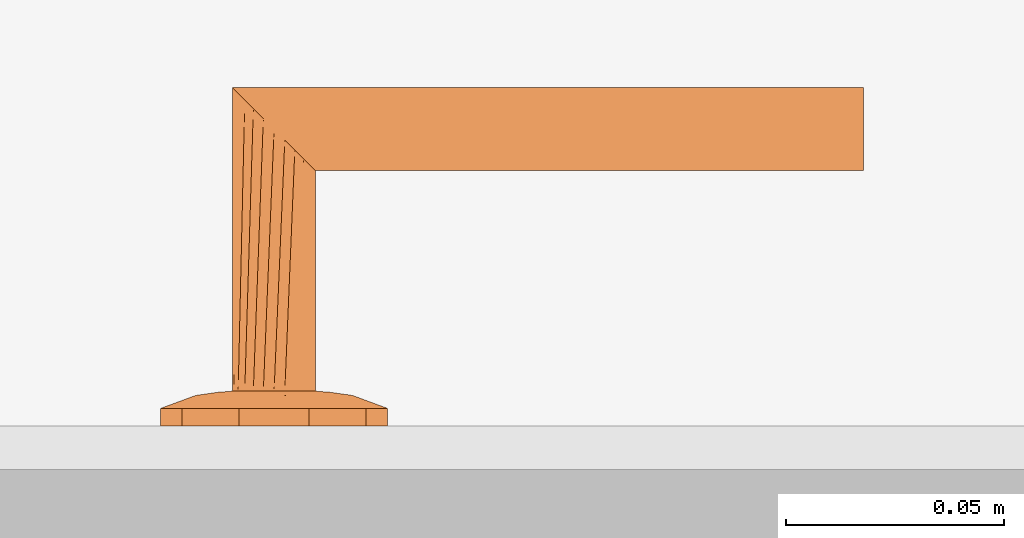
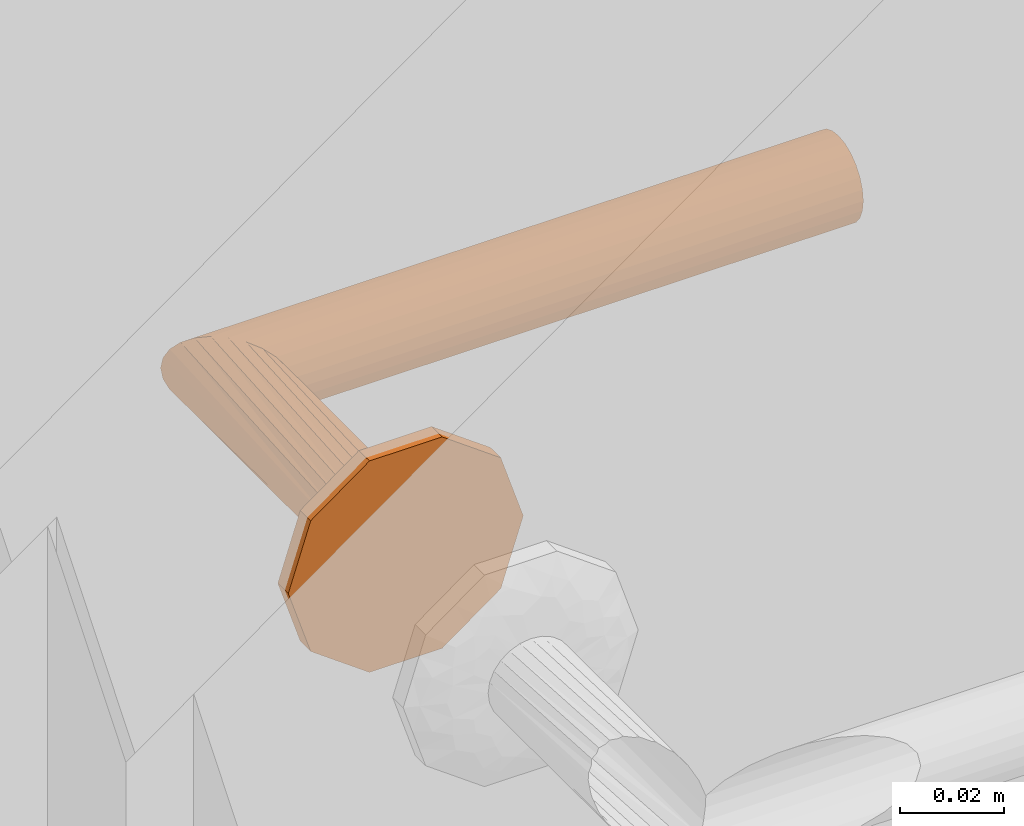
# One storey, part 26 of 55: 1 proxy.
"""IFC2X3 building model written with IfcOpenShell, lengths in millimetres."""

from ifc_helpers import new_model, entity, si_unit, converted_unit, direction, frame, origin, place, context, subcontext, project, spatial, faceted_brep, source, transform, mapped, material, type_object, type_shapes, element, save


model = new_model("IFC2X3")

# Units and contexts
model_context = context("Model", 3, precision=0.01, world=origin(), true_north=direction((6.123233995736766e-17, 1.0)))
plan_context = context("Plan", 3, precision=0.01, world=origin(), true_north=direction((6.123233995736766e-17, 1.0)))
body_context = subcontext(model_context, "Body", "Model", "MODEL_VIEW")
ifc_project = project(units=[si_unit("LENGTHUNIT", "METRE", prefix="MILLI"), converted_unit("PLANEANGLEUNIT", "DEGREE", entity("IfcPlaneAngleMeasure", 0.017453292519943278), si_unit("PLANEANGLEUNIT", "RADIAN"), dimensions=[0, 0, 0, 0, 0, 0, 0]), si_unit("AREAUNIT", "SQUARE_METRE")], contexts=[model_context, plan_context])

# Site, building, storey, space
site_placement = place(None, origin())
site = spatial("IfcSite", under=ifc_project, at=site_placement, Name="Default", CompositionType="ELEMENT")
building_placement = place(site_placement, origin())
building = spatial("IfcBuilding", under=site, at=building_placement, CompositionType="ELEMENT")
storey_placement = place(building_placement, origin())
storey = spatial("IfcBuildingStorey", under=building, at=storey_placement, Name="1K", CompositionType="ELEMENT", Elevation=0.0)
space_placement = place(storey_placement, origin())
space = spatial("IfcSpace", under=storey, at=space_placement, Name="1-0.5", CompositionType="ELEMENT", InteriorOrExteriorSpace="INTERNAL")

# Proxy
ifc_material = material(Name="<Unnamed>")
building_element_proxy_type = type_object("IfcBuildingElementProxyType", Name="Door-handle_Lever_ABLOY_INOXI_3-19ss-002_RT:Default", PredefinedType="NOTDEFINED", material=ifc_material)
shared_shape = source(origin(), body_context, "Body", "Brep", [
    faceted_brep([(0.0, 0.0, 0.0), (21.034441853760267, -15.282416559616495, 0.0), (14.534441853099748, -20.00494299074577, 0.0), (8.034441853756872, -24.72746942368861, 0.0), (0.0, -24.72746942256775, 0.0), (23.51722092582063, -7.6412082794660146, 0.0), (26.0, 0.0, 0.0), (-8.034441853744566, -24.727469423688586, 0.0), (-14.534441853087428, -20.00494299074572, 0.0), (-21.03444185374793, -15.282416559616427, 0.0), (-23.517220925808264, -7.641208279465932, 0.0), (-26.0, 0.0, 0.0), (-23.517220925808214, 7.641208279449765, 0.0), (23.517220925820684, 7.641208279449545, 0.0), (21.034441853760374, 15.282416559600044, 0.0), (14.53444185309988, 20.00494299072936, 0.0), (8.034441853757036, 24.72746942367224, 0.0), (-21.034441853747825, 15.282416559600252, 0.0), (-14.53444185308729, 20.004942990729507, 0.0), (-8.0344418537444, 24.72746942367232, 0.0), (0.0, 24.72746942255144, 0.0), (0.0, 0.0, 8.0), (4.7500000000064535, -8.227241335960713, 8.0), (5.937500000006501, -6.170431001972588, 8.0), (7.125000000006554, -4.113620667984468, 8.0), (8.312500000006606, -2.0568103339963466, 8.0), (9.500000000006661, 0.0, 8.0), (8.312500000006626, 2.056810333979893, 8.0), (2.3750000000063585, -8.227241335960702, 8.0), (0.0, -8.227241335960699, 8.0), (-2.3749999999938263, -8.227241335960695, 8.0), (-4.749999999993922, -8.227241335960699, 8.0), (-5.937499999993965, -6.170431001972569, 8.0), (-7.124999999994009, -4.113620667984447, 8.0), (-8.312499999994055, -2.056810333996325, 8.0), (-9.499999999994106, 0.0, 8.0), (7.125000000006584, 4.113620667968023, 8.0), (5.937500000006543, 6.170431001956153, 8.0), (4.750000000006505, 8.227241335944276, 8.0), (2.3750000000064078, 8.22724133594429, 8.0), (-8.31249999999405, 2.0568103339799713, 8.0), (-7.12499999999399, 4.113620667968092, 8.0), (-5.9374999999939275, 6.170431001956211, 8.0), (-4.74999999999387, 8.227241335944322, 8.0), (0.0, 8.227241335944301, 8.0), (-2.374999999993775, 8.227241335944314, 8.0), (-22.488765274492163, -10.806469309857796, 4.030771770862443), (-16.663919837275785, -7.932665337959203, 6.877259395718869), (-20.643071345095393, -6.292822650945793, 5.929480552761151), (-12.50457926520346, -5.179566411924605, 7.774932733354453), (-16.764060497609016, -3.820257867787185, 7.1747985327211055), (-9.071726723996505, -10.311606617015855, 7.7520782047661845), (-11.963426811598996, -8.625290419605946, 7.618343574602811), (-11.979136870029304, -13.678312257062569, 6.945778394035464), (5.7585542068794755, -20.96753300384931, 5.871476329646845), (0.0, -24.72746942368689, 4.030771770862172), (8.03444185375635, -24.727469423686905, 4.030771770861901), (16.66391982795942, -7.932665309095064, 6.877259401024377), (22.488765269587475, -10.806469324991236, 4.03077177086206), (20.64307133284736, -6.29282258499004, 5.929480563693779), (14.534441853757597, -20.004942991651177, 4.030771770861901), (9.499431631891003, -18.64368355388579, 6.154325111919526), (-15.783149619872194, -11.991003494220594, 6.50080018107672), (-21.034441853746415, -15.282416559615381, 4.030771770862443), (-14.53444185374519, -20.00494299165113, 4.030771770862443), (-23.012042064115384, 0.0, 5.135401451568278), (-23.943088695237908, -6.330522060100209, 4.030771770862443), (11.96342678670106, -8.62529049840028, 7.618343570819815), (12.504579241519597, -5.179566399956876, 7.774932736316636), (16.764060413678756, -3.8202578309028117, 7.17479855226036), (15.783149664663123, -11.991003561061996, 6.50080015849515), (17.985351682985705, 0.0, 6.993737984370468), (23.012042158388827, 0.0, 5.135401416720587), (8.661516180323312, -10.478936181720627, 7.768126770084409), (-8.03444185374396, -24.727469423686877, 4.030771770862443), (-3.3573143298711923, -21.197247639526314, 5.971427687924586), (-9.941915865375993, -17.061976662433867, 6.522757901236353), (-5.973257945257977, -16.430139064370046, 7.110979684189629), (-7.711266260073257, -12.760344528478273, 7.594456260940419), (11.979136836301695, -13.678312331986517, 6.945778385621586), (7.511307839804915, -13.358932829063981, 7.529187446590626), (5.953298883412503, -16.50608604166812, 7.096344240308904), (-1.5654593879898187, -15.307443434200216, 7.519134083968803), (-7.784980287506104, -20.476295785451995, 5.812837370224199), (2.8135289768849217, -17.76392260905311, 6.993737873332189), (-17.98535168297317, 0.0, 6.993737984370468), (-26.0, 0.0, 4.030771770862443), (-23.51722092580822, -7.641208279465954, 4.030771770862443), (23.943088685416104, -6.33052209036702, 4.030771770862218), (24.308823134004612, -5.204907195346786, 4.030771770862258), (26.0, 0.0, 4.030771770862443), (21.03444185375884, -15.282416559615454, 4.030771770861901), (22.617646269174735, -10.40981439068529, 4.030771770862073), (22.488765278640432, 10.806469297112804, 4.030771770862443), (16.66391984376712, 7.932665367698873, 6.877259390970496), (20.643071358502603, 6.292822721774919, 5.929480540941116), (12.504579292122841, 5.179566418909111, 7.774932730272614), (16.764060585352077, 3.8202579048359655, 7.174798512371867), (9.07172672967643, 10.31160659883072, 7.752078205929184), (11.963426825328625, 8.62529034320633, 7.618343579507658), (11.979136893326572, 13.67831220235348, 6.9457784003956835), (-5.758554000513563, 20.96753314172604, 5.8714763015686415), (0.0, 24.72746942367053, 4.030771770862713), (-8.03444185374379, 24.72746942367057, 4.030771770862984), (-16.663919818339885, 7.932665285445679, 6.877259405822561), (-22.48876526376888, 10.806469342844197, 4.030771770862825), (-20.643071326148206, 6.2928225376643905, 5.929480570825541), (-14.534441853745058, 20.004942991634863, 4.030771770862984), (-9.499431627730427, 18.643683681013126, 6.154325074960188), (15.783149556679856, 11.991003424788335, 6.5008002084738), (21.03444185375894, 15.282416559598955, 4.030771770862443), (14.534441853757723, 20.004942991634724, 4.030771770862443), (23.943088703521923, 6.330522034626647, 4.030771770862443), (-11.96342675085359, 8.625290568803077, 7.618343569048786), (-12.504579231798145, 5.179566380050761, 7.77493273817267), (-16.764060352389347, 3.820257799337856, 7.174798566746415), (-15.78314967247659, 11.991003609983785, 6.500800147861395), (-8.661516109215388, 10.478936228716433, 7.768126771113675), (8.034441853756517, 24.727469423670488, 4.030771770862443), (3.3573144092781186, 21.197247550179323, 5.971427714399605), (9.941915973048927, 17.061976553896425, 6.522757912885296), (5.9732581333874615, 16.430139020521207, 7.110979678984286), (7.711266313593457, 12.760344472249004, 7.5944562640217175), (-11.979136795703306, 13.678312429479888, 6.945778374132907), (-7.511307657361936, 13.358932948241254, 7.5291874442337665), (-5.9532988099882, 16.50608628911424, 7.096344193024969), (1.5654596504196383, 15.3074431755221, 7.519134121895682), (7.784980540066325, 20.476295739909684, 5.812837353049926), (-2.81352881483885, 17.76392263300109, 6.993737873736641), (23.51722092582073, 7.6412082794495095, 4.030771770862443), (-23.94308867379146, 6.330522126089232, 4.030771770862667), (-24.308823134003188, 5.20490719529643, 4.030771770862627), (-21.034441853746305, 15.282416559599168, 4.030771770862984), (-22.617646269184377, 10.409814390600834, 4.0307717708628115)], [[[0, 1, 2]], [[0, 2, 3]], [[0, 3, 4]], [[0, 5, 1]], [[0, 6, 5]], [[0, 4, 7]], [[0, 7, 8]], [[0, 8, 9]], [[0, 9, 10]], [[0, 10, 11]], [[0, 11, 12]], [[0, 13, 6]], [[0, 14, 13]], [[0, 15, 14]], [[0, 16, 15]], [[0, 12, 17]], [[0, 17, 18]], [[0, 18, 19]], [[0, 19, 20]], [[0, 20, 16]], [[21, 22, 23]], [[21, 23, 24]], [[21, 24, 25]], [[21, 25, 26]], [[21, 26, 27]], [[21, 28, 22]], [[21, 29, 28]], [[21, 30, 29]], [[21, 31, 30]], [[21, 32, 31]], [[21, 33, 32]], [[21, 34, 33]], [[21, 35, 34]], [[21, 27, 36]], [[21, 36, 37]], [[21, 37, 38]], [[21, 38, 39]], [[21, 40, 35]], [[21, 41, 40]], [[21, 42, 41]], [[21, 43, 42]], [[21, 39, 44]], [[21, 44, 45]], [[21, 45, 43]], [[46, 47, 48]], [[47, 49, 50]], [[49, 33, 34]], [[51, 52, 53]], [[49, 52, 33]], [[48, 47, 50]], [[54, 55, 56]], [[57, 58, 59]], [[56, 60, 61]], [[62, 63, 64]], [[65, 66, 48]], [[67, 57, 68]], [[68, 69, 25]], [[57, 67, 70]], [[69, 26, 25]], [[62, 53, 52]], [[71, 69, 72]], [[67, 23, 73]], [[74, 55, 75]], [[76, 77, 78]], [[79, 60, 70]], [[69, 59, 72]], [[80, 81, 61]], [[77, 30, 78]], [[82, 30, 77]], [[28, 80, 22]], [[77, 83, 75]], [[75, 82, 77]], [[55, 84, 75]], [[85, 50, 35]], [[24, 68, 25]], [[82, 84, 29]], [[84, 82, 75]], [[31, 78, 30]], [[82, 29, 30]], [[34, 35, 50]], [[52, 49, 47]], [[62, 52, 47]], [[34, 50, 49]], [[53, 78, 51]], [[32, 33, 52]], [[85, 65, 50]], [[66, 65, 86]], [[67, 68, 24]], [[77, 76, 83]], [[65, 48, 50]], [[63, 62, 46]], [[48, 66, 87, 46]], [[62, 47, 46]], [[69, 68, 57]], [[80, 73, 22]], [[70, 67, 79]], [[67, 24, 23]], [[72, 88, 89, 90]], [[69, 71, 26]], [[59, 69, 57]], [[61, 60, 79]], [[62, 64, 53]], [[91, 58, 70]], [[72, 59, 88]], [[57, 70, 58]], [[59, 58, 92]], [[80, 61, 79]], [[91, 70, 60]], [[61, 81, 54]], [[73, 80, 79]], [[28, 84, 81]], [[67, 73, 79]], [[29, 84, 28]], [[22, 73, 23]], [[51, 31, 32]], [[76, 78, 53]], [[53, 64, 76]], [[83, 64, 74]], [[64, 83, 76]], [[75, 83, 74]], [[31, 51, 78]], [[52, 51, 32]], [[28, 81, 80]], [[54, 81, 84]], [[55, 54, 84]], [[61, 54, 56]], [[93, 94, 95]], [[94, 96, 97]], [[96, 36, 27]], [[98, 99, 100]], [[96, 99, 36]], [[95, 94, 97]], [[101, 102, 103]], [[104, 105, 106]], [[103, 107, 108]], [[109, 110, 111]], [[72, 112, 95]], [[113, 104, 114]], [[114, 115, 40]], [[104, 113, 116]], [[115, 35, 40]], [[109, 100, 99]], [[85, 115, 65]], [[113, 42, 117]], [[118, 102, 119]], [[120, 121, 122]], [[123, 107, 116]], [[115, 106, 65]], [[124, 125, 108]], [[121, 39, 122]], [[126, 39, 121]], [[45, 124, 43]], [[121, 127, 119]], [[119, 126, 121]], [[102, 128, 119]], [[71, 97, 26]], [[41, 114, 40]], [[126, 128, 44]], [[128, 126, 119]], [[38, 122, 39]], [[126, 44, 39]], [[27, 26, 97]], [[99, 96, 94]], [[109, 99, 94]], [[27, 97, 96]], [[100, 122, 98]], [[37, 36, 99]], [[71, 72, 97]], [[112, 72, 90]], [[113, 114, 41]], [[121, 120, 127]], [[72, 95, 97]], [[110, 109, 93]], [[95, 112, 129, 93]], [[109, 94, 93]], [[115, 114, 104]], [[124, 117, 43]], [[116, 113, 123]], [[113, 41, 42]], [[65, 130, 131, 86]], [[115, 85, 35]], [[106, 115, 104]], [[108, 107, 123]], [[109, 111, 100]], [[132, 105, 116]], [[65, 106, 130]], [[104, 116, 105]], [[106, 105, 133]], [[124, 108, 123]], [[132, 116, 107]], [[108, 125, 101]], [[117, 124, 123]], [[45, 128, 125]], [[113, 117, 123]], [[44, 128, 45]], [[43, 117, 42]], [[98, 38, 37]], [[120, 122, 100]], [[100, 111, 120]], [[127, 111, 118]], [[111, 127, 120]], [[119, 127, 118]], [[38, 98, 122]], [[99, 98, 37]], [[45, 125, 124]], [[101, 125, 128]], [[102, 101, 128]], [[108, 101, 103]], [[7, 74, 64, 63, 9, 8]], [[10, 9, 63, 46, 87, 66, 86, 11]], [[6, 90, 89, 88, 92, 1, 5]], [[1, 58, 91]], [[74, 7, 4, 3, 56, 55]], [[60, 56, 3, 2, 1, 91]], [[1, 92, 58]], [[14, 110, 93, 129, 112, 90, 6, 13]], [[111, 110, 14, 15, 16, 118]], [[11, 86, 131, 130, 133, 17, 12]], [[17, 105, 132]], [[118, 16, 20, 19, 103, 102]], [[107, 103, 19, 18, 17, 132]], [[17, 133, 105]], [[59, 92, 88]], [[106, 133, 130]]]),
    faceted_brep([(4.7499999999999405, -8.22724133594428, 8.0), (2.4587809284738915, -9.176295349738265, 8.0), (0.0, -9.499999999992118, 8.0), (-2.4587809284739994, -9.176295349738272, 8.0), (-4.7500000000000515, -8.227241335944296, 8.0), (-6.717514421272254, -6.717514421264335, 8.0), (-8.227241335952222, -4.74999999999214, 8.0), (-9.176295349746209, -2.4587809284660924, 8.0), (-9.500000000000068, 0.0, 8.0), (-9.176295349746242, 2.458780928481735, 8.0), (-8.227241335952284, 4.750000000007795, 8.0), (-6.717514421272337, 6.717514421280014, 8.0), (-4.750000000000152, 8.227241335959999, 8.0), (-2.4587809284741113, 9.176295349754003, 8.0), (0.0, 9.500000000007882, 8.0), (2.4587809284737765, 9.176295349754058, 8.0), (4.7499999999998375, 8.227241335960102, 8.0), (6.717514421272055, 6.717514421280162, 8.0), (8.22724133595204, 4.75000000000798, 8.0), (9.17629534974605, 2.458780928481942, 8.0), (9.499999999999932, 0.0, 8.0), (9.17629534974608, -2.458780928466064, 8.0), (8.227241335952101, -4.749999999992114, 8.0), (6.717514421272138, -6.7175144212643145, 8.0), (-8.227241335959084, 4.7499999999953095, 59.772758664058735), (-6.717514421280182, 6.7175144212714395, 61.282485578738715), (-9.176295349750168, 2.458780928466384, 58.82370465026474), (-4.750000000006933, 8.227241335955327, 63.25000000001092), (-2.4587809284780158, 9.176295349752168, 65.54121907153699), (-9.500000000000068, 0.0, 58.50000000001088), (0.0, 9.50000000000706, 68.0), (4.750000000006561, 8.227241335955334, 72.75000000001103), (2.4587809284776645, 9.17629534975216, 70.45878092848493), (6.717514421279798, 6.7175144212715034, 74.71751442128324), (8.22724133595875, 4.749999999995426, 76.22724133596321), (9.17629534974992, 2.458780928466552, 77.17629534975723), (9.499999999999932, 0.0, 77.50000000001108), (9.176295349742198, -2.4587809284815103, 77.1762953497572), (8.227241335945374, -4.750000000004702, 76.22724133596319), (6.7175144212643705, -6.717514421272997, 74.7175144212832), (4.749999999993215, -8.227241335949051, 72.75000000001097), (2.4587809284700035, -9.17629534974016, 70.45878092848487), (0.0, -9.49999999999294, 68.0), (-2.4587809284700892, -9.176295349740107, 65.54121907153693), (-4.749999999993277, -8.227241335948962, 63.250000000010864), (-6.717514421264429, -6.717514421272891, 61.282485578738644), (-9.176295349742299, -2.458780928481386, 58.8237046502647), (-8.227241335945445, -4.750000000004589, 59.77275866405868), (-135.0, -9.176295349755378, 70.4587809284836), (-135.0, -8.227241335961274, 72.75000000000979), (-135.0, -6.717514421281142, 74.71751442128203), (-135.0, -4.750000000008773, 76.22724133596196), (-135.0, -2.4587809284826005, 77.17629534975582), (-135.0, 0.0, 77.5000000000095), (-135.0, 2.4587809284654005, 77.17629534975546), (-135.0, 4.749999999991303, 76.22724133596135), (-135.0, 6.717514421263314, 74.71751442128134), (-135.0, 8.227241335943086, 72.75000000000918), (-135.0, 9.17629534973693, 70.45878092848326), (-135.0, 9.499999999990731, 68.0), (-135.0, 9.17629534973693, 65.54121907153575), (-135.0, 8.227241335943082, 63.250000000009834), (-135.0, 6.717514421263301, 61.28248557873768), (-135.0, 4.749999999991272, 59.772758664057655), (-135.0, 2.458780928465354, 58.823704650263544), (-135.0, 0.0, 58.50000000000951), (-135.0, -2.458780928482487, 58.82370465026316), (-135.0, -4.750000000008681, 59.772758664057), (-135.0, -6.7175144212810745, 61.28248557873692), (-135.0, -8.227241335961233, 63.25000000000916), (-135.0, -9.176295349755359, 65.54121907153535), (-135.0, -9.500000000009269, 68.0)], [[[0, 1, 2, 3, 4, 5, 6, 7, 8, 9, 10, 11, 12, 13, 14, 15, 16, 17, 18, 19, 20, 21, 22, 23]], [[24, 25, 11, 10]], [[26, 24, 10, 9]], [[14, 27, 28]], [[13, 27, 14]], [[25, 27, 13]], [[29, 26, 9, 8]], [[12, 11, 25]], [[25, 13, 12]], [[28, 30, 15]], [[31, 17, 32]], [[33, 18, 31]], [[19, 34, 35]], [[33, 34, 19]], [[20, 19, 35, 36]], [[16, 15, 30]], [[14, 28, 15]], [[19, 18, 33]], [[17, 31, 18]], [[17, 16, 32]], [[30, 32, 16]], [[20, 36, 37, 21]], [[38, 21, 37]], [[22, 39, 40]], [[38, 39, 21]], [[23, 40, 41]], [[39, 22, 21]], [[1, 42, 43]], [[42, 1, 0]], [[23, 41, 0]], [[23, 22, 40]], [[41, 42, 0]], [[44, 45, 3]], [[43, 44, 2]], [[46, 29, 8, 7]], [[47, 46, 7, 6]], [[45, 47, 6, 5]], [[45, 4, 3]], [[3, 2, 44]], [[5, 4, 45]], [[43, 2, 1]], [[48, 49, 50, 51, 52, 53, 54, 55, 56, 57, 58, 59, 60, 61, 62, 63, 64, 65, 66, 67, 68, 69, 70, 71]], [[64, 63, 24, 26]], [[65, 64, 26, 29]], [[61, 60, 28, 27]], [[62, 61, 27, 25]], [[63, 62, 25, 24]], [[59, 30, 28, 60]], [[57, 56, 33, 31]], [[58, 57, 31, 32]], [[54, 53, 36, 35]], [[55, 54, 35, 34]], [[56, 55, 34, 33]], [[32, 30, 59, 58]], [[52, 51, 38, 37]], [[53, 52, 37, 36]], [[49, 48, 41, 40]], [[50, 49, 40, 39]], [[51, 50, 39, 38]], [[42, 41, 48, 71]], [[69, 68, 45, 44]], [[70, 69, 44, 43]], [[66, 65, 29, 46]], [[67, 66, 46, 47]], [[68, 67, 47, 45]], [[42, 71, 70, 43]]]),
])
type_shapes(building_element_proxy_type, [shared_shape])
proxy_placement = place(space_placement, frame((8554.995060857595, 3109.999959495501, 1000.0), z_axis=(0.0, 1.0, 0.0), x_axis=(-1.0, 0.0, 0.0)))
element("IfcBuildingElementProxy", 1, at=proxy_placement, inside=space, type_object=building_element_proxy_type, material=ifc_material, Name="Door-handle_Lever_ABLOY_INOXI_3-19ss-002_RT:Default", ObjectType="Door-handle_Lever_ABLOY_INOXI_3-19ss-002_RT:Default", context=body_context, shape_type="MappedRepresentation", body=[
    mapped(shared_shape, transform((0.0, 0.0, 0.0), scale=1.0)),
])

save(model, "model.ifc")
